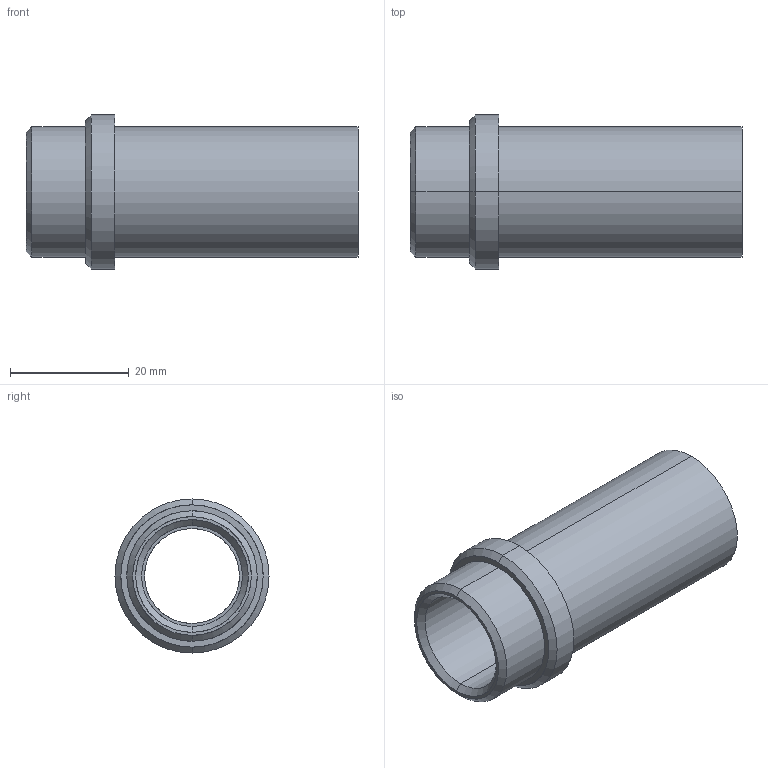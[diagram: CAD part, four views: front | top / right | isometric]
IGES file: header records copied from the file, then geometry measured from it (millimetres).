
Start section: START RECORD GO HERE.
Global section: file name: 358-16x56.igs; native system: DASSAULT SYSTEMES CATIA V5 R20 - www.3ds.com; preprocessor: CATIA Version 5 Release 20 ; author: Utente; organization: NB04-ASUS; date: 20210408.155451; units: millimetre
Bounding box: 56 x 26 x 26 mm (x, y, z)
Surface area: 7321 mm2 (no closed solid volume)
Topology: 0 solids, 0 shells, 23 faces, 148 edges, 148 vertices
Faces by surface type: revolution 18, plane 5
